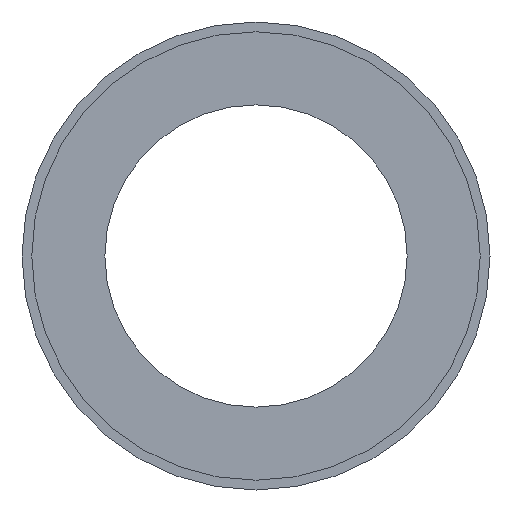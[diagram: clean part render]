
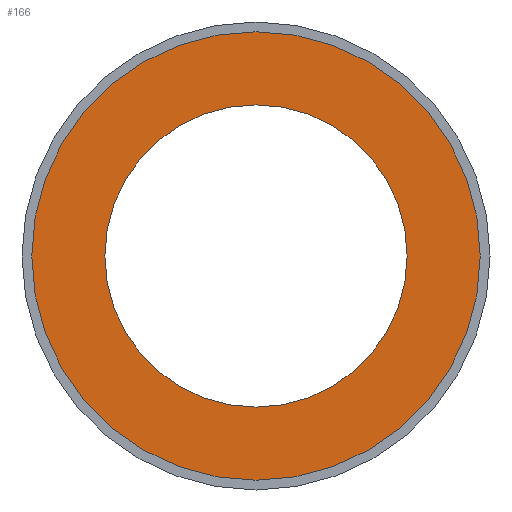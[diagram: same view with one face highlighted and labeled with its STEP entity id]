
A CAD part, front view. The second image highlights one B-rep face of the part: STEP entity #166.
In plain terms, the highlighted planar face has unit normal (0, -1, 0).
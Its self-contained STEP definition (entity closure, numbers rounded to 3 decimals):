
#10 = EDGE_LOOP ( 'NONE', ( #312, #93 ) ) ;
#47 = AXIS2_PLACEMENT_3D ( 'NONE', #181, #186, #268 ) ;
#80 = DIRECTION ( 'NONE',  ( 0., 0., -1. ) ) ;
#81 = CARTESIAN_POINT ( 'NONE',  ( 0., 2.67, 23. ) ) ;
#83 = CIRCLE ( 'NONE', #188, 23. ) ;
#93 = ORIENTED_EDGE ( 'NONE', *, *, #157, .T. ) ;
#113 = AXIS2_PLACEMENT_3D ( 'NONE', #259, #319, #117 ) ;
#117 = DIRECTION ( 'NONE',  ( 0., 0., -1. ) ) ;
#119 = AXIS2_PLACEMENT_3D ( 'NONE', #218, #339, #80 ) ;
#122 = EDGE_CURVE ( 'NONE', #146, #142, #356, .T. ) ;
#142 = VERTEX_POINT ( 'NONE', #354 ) ;
#146 = VERTEX_POINT ( 'NONE', #147 ) ;
#147 = CARTESIAN_POINT ( 'NONE',  ( 0., 2.67, -15.5 ) ) ;
#154 = ORIENTED_EDGE ( 'NONE', *, *, #122, .F. ) ;
#157 = EDGE_CURVE ( 'NONE', #360, #373, #83, .T. ) ;
#166 = ADVANCED_FACE ( 'NONE', ( #263, #178 ), #229, .T. ) ;
#178 = FACE_BOUND ( 'NONE', #320, .T. ) ;
#181 = CARTESIAN_POINT ( 'NONE',  ( 0., 2.67, 0. ) ) ;
#186 = DIRECTION ( 'NONE',  ( 0., -1., 0. ) ) ;
#188 = AXIS2_PLACEMENT_3D ( 'NONE', #292, #197, #201 ) ;
#190 = DIRECTION ( 'NONE',  ( 0., -1., 0. ) ) ;
#197 = DIRECTION ( 'NONE',  ( 0., -1., 0. ) ) ;
#201 = DIRECTION ( 'NONE',  ( 0., 0., -1. ) ) ;
#206 = ORIENTED_EDGE ( 'NONE', *, *, #285, .F. ) ;
#210 = CIRCLE ( 'NONE', #47, 15.5 ) ;
#218 = CARTESIAN_POINT ( 'NONE',  ( 0., 2.67, 0. ) ) ;
#229 = PLANE ( 'NONE',  #113 ) ;
#259 = CARTESIAN_POINT ( 'NONE',  ( 15.5, 2.67, 0. ) ) ;
#263 = FACE_OUTER_BOUND ( 'NONE', #10, .T. ) ;
#268 = DIRECTION ( 'NONE',  ( 0., 0., -1. ) ) ;
#277 = CIRCLE ( 'NONE', #310, 23. ) ;
#285 = EDGE_CURVE ( 'NONE', #142, #146, #210, .T. ) ;
#292 = CARTESIAN_POINT ( 'NONE',  ( 0., 2.67, 0. ) ) ;
#308 = CARTESIAN_POINT ( 'NONE',  ( 0., 2.67, -23. ) ) ;
#310 = AXIS2_PLACEMENT_3D ( 'NONE', #340, #190, #371 ) ;
#312 = ORIENTED_EDGE ( 'NONE', *, *, #321, .T. ) ;
#319 = DIRECTION ( 'NONE',  ( 0., -1., 0. ) ) ;
#320 = EDGE_LOOP ( 'NONE', ( #154, #206 ) ) ;
#321 = EDGE_CURVE ( 'NONE', #373, #360, #277, .T. ) ;
#339 = DIRECTION ( 'NONE',  ( 0., -1., 0. ) ) ;
#340 = CARTESIAN_POINT ( 'NONE',  ( 0., 2.67, 0. ) ) ;
#354 = CARTESIAN_POINT ( 'NONE',  ( 0., 2.67, 15.5 ) ) ;
#356 = CIRCLE ( 'NONE', #119, 15.5 ) ;
#360 = VERTEX_POINT ( 'NONE', #81 ) ;
#371 = DIRECTION ( 'NONE',  ( 0., 0., -1. ) ) ;
#373 = VERTEX_POINT ( 'NONE', #308 ) ;
